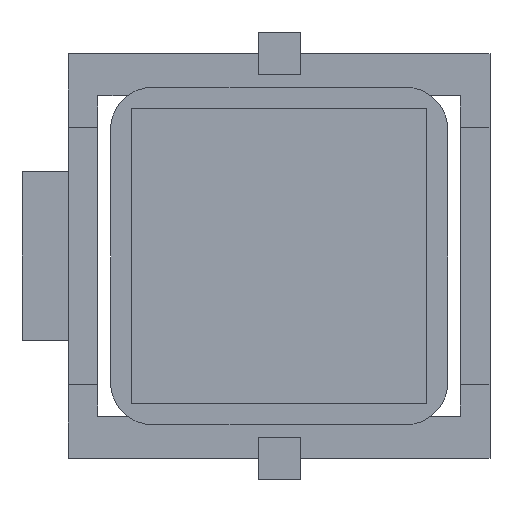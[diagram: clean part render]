
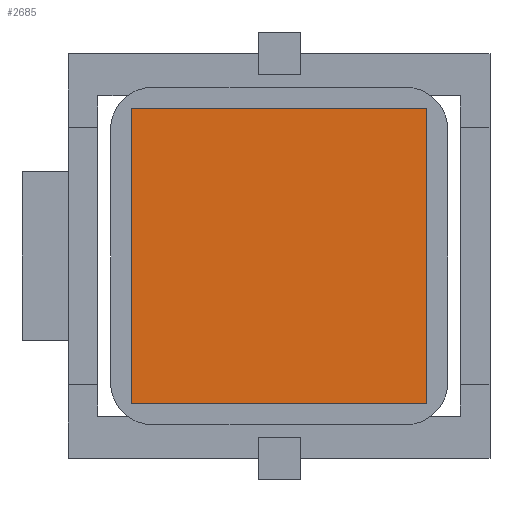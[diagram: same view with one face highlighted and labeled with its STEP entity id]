
A CAD part, front view. The second image highlights one B-rep face of the part: STEP entity #2685.
In plain terms, the highlighted planar face has unit normal (0, -1, 0).
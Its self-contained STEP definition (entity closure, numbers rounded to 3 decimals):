
#36 = VERTEX_POINT ( 'NONE', #587 ) ;
#107 = VERTEX_POINT ( 'NONE', #3930 ) ;
#220 = CARTESIAN_POINT ( 'NONE',  ( -2.913, -13.936, 0.225 ) ) ;
#546 = DIRECTION ( 'NONE',  ( 0., 0., -1. ) ) ;
#587 = CARTESIAN_POINT ( 'NONE',  ( 11.087, -13.936, 14.225 ) ) ;
#741 = EDGE_CURVE ( 'NONE', #746, #36, #2737, .T. ) ;
#746 = VERTEX_POINT ( 'NONE', #3788 ) ;
#854 = LINE ( 'NONE', #1922, #2472 ) ;
#1015 = AXIS2_PLACEMENT_3D ( 'NONE', #220, #1606, #3750 ) ;
#1199 = ORIENTED_EDGE ( 'NONE', *, *, #1948, .F. ) ;
#1374 = VECTOR ( 'NONE', #2359, 1000. ) ;
#1478 = ORIENTED_EDGE ( 'NONE', *, *, #2650, .F. ) ;
#1606 = DIRECTION ( 'NONE',  ( 0., 1., 0. ) ) ;
#1610 = LINE ( 'NONE', #1971, #1949 ) ;
#1922 = CARTESIAN_POINT ( 'NONE',  ( -2.913, -13.936, 0.225 ) ) ;
#1948 = EDGE_CURVE ( 'NONE', #107, #746, #3879, .T. ) ;
#1949 = VECTOR ( 'NONE', #546, 1000. ) ;
#1971 = CARTESIAN_POINT ( 'NONE',  ( 11.087, -13.936, 0.225 ) ) ;
#1995 = PLANE ( 'NONE',  #1015 ) ;
#2008 = ORIENTED_EDGE ( 'NONE', *, *, #2664, .F. ) ;
#2359 = DIRECTION ( 'NONE',  ( 1., 0., 0. ) ) ;
#2472 = VECTOR ( 'NONE', #3355, 1000. ) ;
#2650 = EDGE_CURVE ( 'NONE', #36, #2687, #1610, .T. ) ;
#2664 = EDGE_CURVE ( 'NONE', #2687, #107, #854, .T. ) ;
#2685 = ADVANCED_FACE ( 'NONE', ( #4114 ), #1995, .F. ) ;
#2687 = VERTEX_POINT ( 'NONE', #3035 ) ;
#2737 = LINE ( 'NONE', #4165, #1374 ) ;
#3035 = CARTESIAN_POINT ( 'NONE',  ( 11.087, -13.936, 0.225 ) ) ;
#3202 = CARTESIAN_POINT ( 'NONE',  ( -2.913, -13.936, 0.225 ) ) ;
#3355 = DIRECTION ( 'NONE',  ( -1., 0., 0. ) ) ;
#3516 = EDGE_LOOP ( 'NONE', ( #1199, #2008, #1478, #4019 ) ) ;
#3577 = DIRECTION ( 'NONE',  ( 0., 0., 1. ) ) ;
#3750 = DIRECTION ( 'NONE',  ( 0., 0., 1. ) ) ;
#3788 = CARTESIAN_POINT ( 'NONE',  ( -2.913, -13.936, 14.225 ) ) ;
#3879 = LINE ( 'NONE', #3202, #4130 ) ;
#3930 = CARTESIAN_POINT ( 'NONE',  ( -2.913, -13.936, 0.225 ) ) ;
#4019 = ORIENTED_EDGE ( 'NONE', *, *, #741, .F. ) ;
#4114 = FACE_OUTER_BOUND ( 'NONE', #3516, .T. ) ;
#4130 = VECTOR ( 'NONE', #3577, 1000. ) ;
#4165 = CARTESIAN_POINT ( 'NONE',  ( -2.913, -13.936, 14.225 ) ) ;
